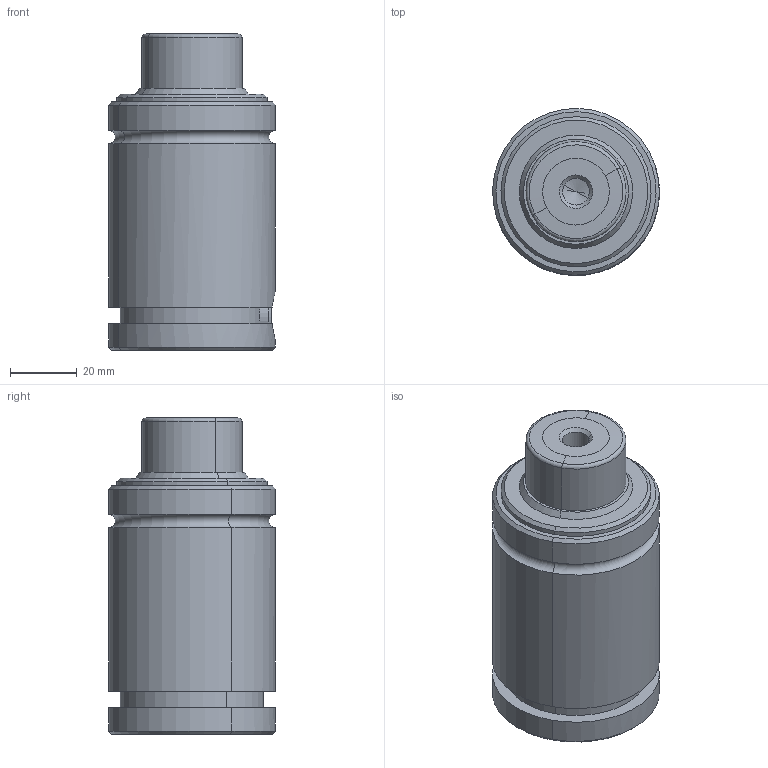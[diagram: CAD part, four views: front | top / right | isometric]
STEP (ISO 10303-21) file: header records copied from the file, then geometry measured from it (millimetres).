
FILE_DESCRIPTION(('CATIA V5 STEP Exchange'),'2;1');
FILE_NAME('W:\CATALOGO GENERAL 2018\FICHEROS CAD\006-TPF\TPFS 2000\TPFS 2000x16.stp','2017-11-21T14:45:33+00:00',('none'),('none'),'CATIA Version 5 Release 17 (IN-10)','CATIA V5 STEP AP203','none');
FILE_SCHEMA(('CONFIG_CONTROL_DESIGN'));
Length unit declared in the file: millimetre
Products named in the file (1): TPFS 2000x16
Assembly tree (3 placements, depth 2):
  TPFS 2000x16
    #56
    #1339
    #1920
Bounding box: 49.99 x 49.99 x 95 mm (x, y, z)
Volume: 202226 mm3; surface area: 30895.8 mm2
Topology: 4 solids, 4 shells, 150 faces, 318 edges, 180 vertices
Faces by surface type: cone 58, cylinder 37, torus 30, plane 25
Entity records: 3661 total; most frequent: CARTESIAN_POINT 665, ORIENTED_EDGE 620, DIRECTION 502, EDGE_CURVE 310, AXIS2_PLACEMENT_3D 289, CIRCLE 186, VERTEX_POINT 180, EDGE_LOOP 164
